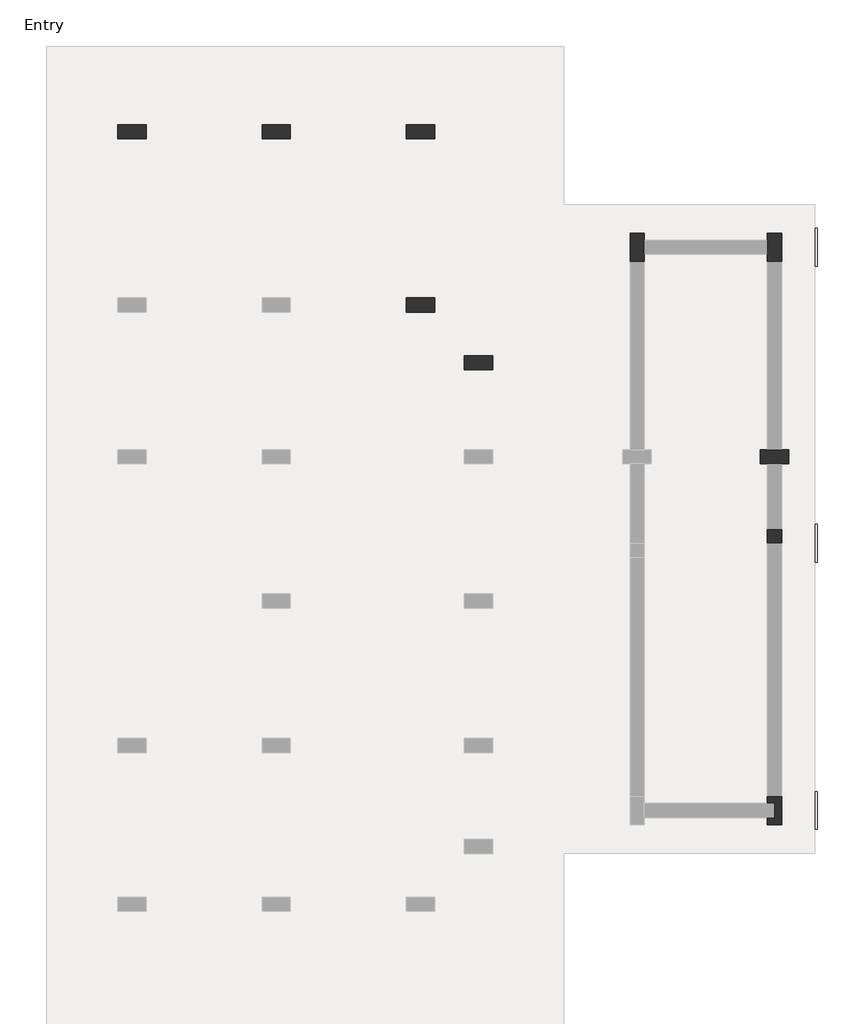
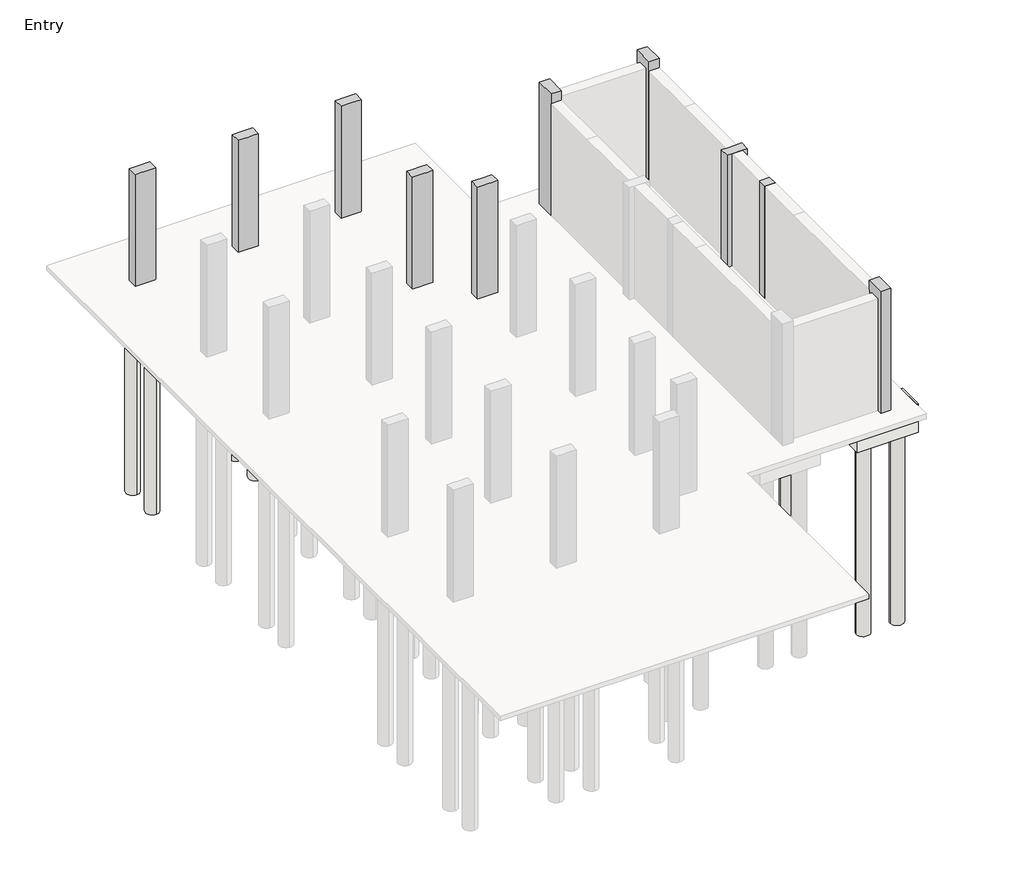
# One storey, part 3 of 3: 33 slabs, 10 columns, 5 footings.
"""IFC4 building model written with IfcOpenShell, lengths in millimetres."""

import ifcopenshell
import ifcopenshell.guid

model = None  # the IFC model being written
_history = None  # IfcOwnerHistory: only IFC2X3 demands one
_inside = {}  # id of a spatial element -> (the spatial element, [elements in it])
_under = {}  # id of a project, library or spatial element -> (it, [spatial elements below it])
_declared = {}  # id of a project -> (the project, [libraries it declares])
_typed = {}  # id of a type object -> (the type object, [elements of that type])
_made_of = {}  # id of a material, layer set ... -> (it, [elements and type objects made of it])


def new_model(schema):
    """Start an empty IFC model of exactly this schema.

    Asked for "IFC4X3", IfcOpenShell would pick the latest addendum, in which some entities
    have other attributes; the version numbers below select the first issue.
    IFC2X3 requires an IfcOwnerHistory on every rooted entity: one is made here for all.
    """
    global model, _history
    if schema == "IFC4X3":
        model = ifcopenshell.file(schema_version=(4, 3, 0, 0))
    else:
        model = ifcopenshell.file(schema=schema)
    _inside.clear()
    _under.clear()
    _declared.clear()
    _typed.clear()
    _made_of.clear()
    _history = None
    if model.schema == "IFC2X3":
        org = make("IfcOrganization", Name="unknown")
        user = make(
            "IfcPersonAndOrganization",
            ThePerson=make("IfcPerson", FamilyName="unknown"),
            TheOrganization=org,
        )
        app = make(
            "IfcApplication",
            ApplicationDeveloper=org,
            Version="unknown",
            ApplicationFullName="unknown",
            ApplicationIdentifier="unknown",
        )
        _history = make(
            "IfcOwnerHistory",
            OwningUser=user,
            OwningApplication=app,
            ChangeAction="ADDED",
            CreationDate=0,
        )
    return model


def make(cls, **values):
    """One entity of the class cls with the attributes given. An attribute that is None is left unset."""
    return model.create_entity(
        cls, **{name: value for name, value in values.items() if value is not None}
    )


def rooted(cls, **values):
    """An entity with a GlobalId (a new one), such as an element, a storey or a relation."""
    return make(cls, GlobalId=ifcopenshell.guid.new(), OwnerHistory=_history, **values)


def si_unit(unit_type, name, prefix=None):
    """IfcSIUnit, for example si_unit("LENGTHUNIT", "METRE", prefix="MILLI")."""
    return make("IfcSIUnit", UnitType=unit_type, Prefix=prefix, Name=name)


def assignment(units):
    """IfcUnitAssignment: the units of a project."""
    return None if units is None else make("IfcUnitAssignment", Units=units)


def point(xyz):
    """IfcCartesianPoint."""
    return None if xyz is None else make("IfcCartesianPoint", Coordinates=xyz)


def direction(xyz):
    """IfcDirection."""
    return None if xyz is None else make("IfcDirection", DirectionRatios=xyz)


def frame(location, z_axis=None, x_axis=None):
    """IfcAxis2Placement3D, a coordinate frame: its origin and axes. An axis left out is left unset."""
    return make(
        "IfcAxis2Placement3D",
        Location=point(location),
        Axis=direction(z_axis),
        RefDirection=direction(x_axis),
    )


def frame_2d(location, x_axis=None):
    """IfcAxis2Placement2D, a coordinate frame in the plane: its origin and x axis."""
    return make(
        "IfcAxis2Placement2D", Location=point(location), RefDirection=direction(x_axis)
    )


def origin():
    """The frame at (0, 0, 0) with its axes left unset."""
    return frame((0.0, 0.0, 0.0))


def origin_with_axes():
    """The frame at (0, 0, 0) with the z axis (0, 0, 1) and the x axis (1, 0, 0) written out."""
    return frame((0.0, 0.0, 0.0), z_axis=(0.0, 0.0, 1.0), x_axis=(1.0, 0.0, 0.0))


def place(relative_to, where):
    """IfcLocalPlacement: puts the frame where relative to a parent placement (None: the world)."""
    return make(
        "IfcLocalPlacement", PlacementRelTo=relative_to, RelativePlacement=where
    )


def context(
    kind, dimensions, precision=None, world=None, true_north=None, identifier=None
):
    """IfcGeometricRepresentationContext, for example the 3D "Model" context."""
    return make(
        "IfcGeometricRepresentationContext",
        ContextIdentifier=identifier,
        ContextType=kind,
        CoordinateSpaceDimension=dimensions,
        Precision=precision,
        WorldCoordinateSystem=world,
        TrueNorth=true_north,
    )


def project(units=None, contexts=None):
    """IfcProject with its units and contexts."""
    return rooted(
        "IfcProject",
        Name="project",
        RepresentationContexts=contexts,
        UnitsInContext=assignment(units),
    )


def spatial(cls, under=None, at=None, **own):
    """A site, building, storey or space (cls), placed at a placement, below another one or the project."""
    s = rooted(cls, ObjectPlacement=at, **own)
    if under is not None:
        _under.setdefault(under.id(), (under, []))[1].append(s)
    return s


def polyline(points):
    """IfcPolyline through the points."""
    return make("IfcPolyline", Points=[point(p) for p in points])


def circle_curve(where, radius):
    """IfcCircle in the frame where."""
    return make("IfcCircle", Position=where, Radius=radius)


def trimmed(basis, trim1, trim2, sense, master):
    """IfcTrimmedCurve: the piece of a basis curve between two trims."""
    return make(
        "IfcTrimmedCurve",
        BasisCurve=basis,
        Trim1=trim1,
        Trim2=trim2,
        SenseAgreement=sense,
        MasterRepresentation=master,
    )


def segment(curve, same_sense, transition):
    """IfcCompositeCurveSegment."""
    return make(
        "IfcCompositeCurveSegment",
        Transition=transition,
        SameSense=same_sense,
        ParentCurve=curve,
    )


def composite_curve(segments, self_intersect=None):
    """IfcCompositeCurve: segments joined end to end."""
    return make("IfcCompositeCurve", Segments=segments, SelfIntersect=self_intersect)


def outline(outer, holes=None, kind="AREA"):
    """IfcArbitraryClosedProfileDef: a profile drawn as a closed curve; with holes, ...WithVoids."""
    if holes is None:
        return make("IfcArbitraryClosedProfileDef", ProfileType=kind, OuterCurve=outer)
    return make(
        "IfcArbitraryProfileDefWithVoids",
        ProfileType=kind,
        OuterCurve=outer,
        InnerCurves=holes,
    )


def extrude(swept, where, along, depth):
    """IfcExtrudedAreaSolid: the profile swept, set in the frame where, extruded along a direction by depth."""
    return make(
        "IfcExtrudedAreaSolid",
        SweptArea=swept,
        Position=where,
        ExtrudedDirection=direction(along),
        Depth=depth,
    )


def faces_of(points, faces, orient=None, outer=None):
    """IfcFace entities. A face is a list of loops; a loop is a list of indices into points, from 0.

    orient and outer hold one flag for each loop. By default every Orientation is true, the
    first loop of a face is its IfcFaceOuterBound and the others are IfcFaceBound.
    """
    made = []
    for i, loops in enumerate(faces):
        bounds = []
        for j, loop in enumerate(loops):
            is_outer = j == 0 if outer is None else outer[i][j]
            bounds.append(
                make(
                    "IfcFaceOuterBound" if is_outer else "IfcFaceBound",
                    Bound=make("IfcPolyLoop", Polygon=[points[k] for k in loop]),
                    Orientation=True if orient is None else orient[i][j],
                )
            )
        made.append(make("IfcFace", Bounds=bounds))
    return made


def faceted_brep(points, faces, orient=None, outer=None, voids=None):
    """IfcFacetedBrep: a solid bounded by flat faces; with voids (closed shells), ...WithVoids."""
    shared = [point(p) for p in points]
    hull = make("IfcClosedShell", CfsFaces=faces_of(shared, faces, orient, outer))
    if voids is None:
        return make("IfcFacetedBrep", Outer=hull)
    return make(
        "IfcFacetedBrepWithVoids",
        Outer=hull,
        Voids=[
            make(cls, CfsFaces=faces_of(shared, fs, o, b)) for cls, fs, o, b in voids
        ],
    )


def shape(context_of_items, identifier, shape_type, items):
    """IfcShapeRepresentation: the items that make up one representation, for example the "Body"."""
    return make(
        "IfcShapeRepresentation",
        ContextOfItems=context_of_items,
        RepresentationIdentifier=identifier,
        RepresentationType=shape_type,
        Items=items,
    )


def made_of(thing, what):
    """Note that an element or type object is made of a material, layer set ...; save() writes the relation."""
    if what is not None:
        _made_of.setdefault(what.id(), (what, []))[1].append(thing)
    return thing


def element(
    cls,
    number,
    at=None,
    inside=None,
    cuts=None,
    type_object=None,
    material=None,
    context=None,
    identifier="Body",
    shape_type=None,
    held_by="IfcProductDefinitionShape",
    body=None,
    shapes=None,
    **own,
):
    """One element of the class cls, such as IfcWall. Its Tag is "e" and its number.

    at: its placement. inside: the storey or other place that contains it. cuts: it is an
    opening in that element (IfcRelVoidsElement). A single representation is given by context,
    identifier, shape_type and body (its items); several are given by shapes. held_by: the class
    of the entity that holds the representations. save() writes the other relations.
    """
    e = rooted(cls, Tag="e%d" % number, ObjectPlacement=at, **own)
    if body is not None:
        shapes = [shape(context, identifier, shape_type, body)]
    if shapes is not None:
        e.Representation = make(held_by, Representations=shapes)
    if inside is not None:
        _inside.setdefault(inside.id(), (inside, []))[1].append(e)
    if cuts is not None:
        rooted(
            "IfcRelVoidsElement", RelatingBuildingElement=cuts, RelatedOpeningElement=e
        )
    if type_object is not None:
        _typed.setdefault(type_object.id(), (type_object, []))[1].append(e)
    return made_of(e, material)


def aggregate(whole, parts):
    """IfcRelAggregates: a whole, such as a stair, and the parts it consists of."""
    return rooted("IfcRelAggregates", RelatingObject=whole, RelatedObjects=parts)


def save(model, path):
    """Write the relations noted so far, then the file.

    IfcRelAggregates (storeys below a building ...), IfcRelContainedInSpatialStructure (elements
    in a storey), IfcRelDefinesByType, IfcRelAssociatesMaterial and IfcRelDeclares: one each for
    every whole, place, type object, material and project.
    """
    for whole, parts in _under.values():
        aggregate(whole, parts)
    for where, things in _inside.values():
        rooted(
            "IfcRelContainedInSpatialStructure",
            RelatedElements=things,
            RelatingStructure=where,
        )
    for kind, things in _typed.values():
        rooted("IfcRelDefinesByType", RelatedObjects=things, RelatingType=kind)
    for what, things in _made_of.values():
        rooted("IfcRelAssociatesMaterial", RelatedObjects=things, RelatingMaterial=what)
    for by, libraries in _declared.values():
        rooted("IfcRelDeclares", RelatingContext=by, RelatedDefinitions=libraries)
    model.write(path)


model = new_model("IFC4")

# Units and contexts
model_context = context("Model", 3, world=origin())
ifc_project = project(units=[si_unit("LENGTHUNIT", "METRE", prefix="MILLI")], contexts=[model_context])

# Site, building, storey
site = spatial("IfcSite", under=ifc_project)
building = spatial("IfcBuilding", under=site)
storey = spatial("IfcBuildingStorey", under=building, Name="Entry", Elevation=0.0)

# Columns
placement = place(None, origin())
element("IfcColumn", 1, ObjectType="M_Concrete-Rectangular-Column : 300 x 600mm", at=placement, inside=storey, context=model_context, shape_type="Brep", body=[
    faceted_brep([(-13131.3472303, 14876.016665, 0.0), (-12531.3472303, 14876.016665, 0.0), (-12531.3472303, 14576.016665, 0.0), (-13131.3472303, 14576.016665, 0.0), (-13131.3472303, 14876.016665, 3505.2), (-12831.3472303, 14876.016665, 3505.2), (-12531.3472303, 14876.016665, 3505.2), (-12531.3472303, 14876.016665, 2910.0), (-12531.3472303, 14576.016665, 3505.2), (-12531.3472303, 14576.016665, 2910.0), (-12831.3472303, 14576.016665, 3505.2), (-12981.3472303, 14576.016665, 3505.2), (-13131.3472303, 14576.016665, 3505.2)], [[[0, 1, 2, 3]], [[4, 5, 6, 7, 1, 0]], [[6, 8, 9, 2, 1, 7]], [[8, 10, 11, 12, 3, 2, 9]], [[12, 4, 0, 3]], [[4, 12, 11, 10, 8, 6, 5]]]),
])
element("IfcColumn", 2, ObjectType="M_Concrete-Rectangular-Column : 300 x 600mm", at=placement, inside=storey, context=model_context, shape_type="Brep", body=[
    faceted_brep([(-10083.3472303, 14876.016665, 0.0), (-9483.3472303, 14876.016665, 0.0), (-9483.3472303, 14576.016665, 0.0), (-10083.3472303, 14576.016665, 0.0), (-10083.3472303, 14876.016665, 3505.2), (-9783.3472303, 14876.016665, 3505.2), (-9483.3472303, 14876.016665, 3505.2), (-9483.3472303, 14876.016665, 2910.0), (-10083.3472303, 14876.016665, 2910.0), (-9483.3472303, 14576.016665, 3505.2), (-9483.3472303, 14576.016665, 2910.0), (-9633.3472303, 14576.016665, 3505.2), (-9783.3472303, 14576.016665, 3505.2), (-10083.3472303, 14576.016665, 3505.2), (-10083.3472303, 14576.016665, 2910.0)], [[[0, 1, 2, 3]], [[4, 5, 6, 7, 1, 0, 8]], [[6, 9, 10, 2, 1, 7]], [[9, 11, 12, 13, 14, 3, 2, 10]], [[13, 4, 8, 0, 3, 14]], [[4, 13, 12, 11, 9, 6, 5]]]),
])
element("IfcColumn", 3, ObjectType="M_Concrete-Rectangular-Column : 300 x 600mm", at=placement, inside=storey, context=model_context, shape_type="Brep", body=[
    faceted_brep([(-7035.3472303, 14876.016665, 0.0), (-6435.3472303, 14876.016665, 0.0), (-6435.3472303, 14576.016665, 0.0), (-7035.3472303, 14576.016665, 0.0), (-7035.3472303, 14876.016665, 3505.2), (-6735.3472303, 14876.016665, 3505.2), (-6435.3472303, 14876.016665, 3505.2), (-7035.3472303, 14876.016665, 2910.0), (-6435.3472303, 14576.016665, 3505.2), (-6585.3472303, 14576.016665, 3505.2), (-6735.3472303, 14576.016665, 3505.2), (-7035.3472303, 14576.016665, 3505.2), (-7035.3472303, 14576.016665, 2910.0)], [[[0, 1, 2, 3]], [[4, 5, 6, 1, 0, 7]], [[6, 8, 2, 1]], [[8, 9, 10, 11, 12, 3, 2]], [[11, 4, 7, 0, 3, 12]], [[4, 11, 10, 9, 8, 6, 5]]]),
])
element("IfcColumn", 4, ObjectType="M_Concrete-Rectangular-Column : 300 x 600mm", at=placement, inside=storey, context=model_context, shape_type="Brep", body=[
    faceted_brep([(-7035.3472303, 11219.016665, 0.0), (-6435.3472303, 11219.016665, 0.0), (-6435.3472303, 10919.016665, 0.0), (-7035.3472303, 10919.016665, 0.0), (-7035.3472303, 11219.016665, 3505.2), (-6885.3472303, 11219.016665, 3505.2), (-6585.3472303, 11219.016665, 3505.2), (-6435.3472303, 11219.016665, 3505.2), (-7035.3472303, 11219.016665, 2910.0), (-6435.3472303, 10919.016665, 3505.2), (-6585.3472303, 10919.016665, 3505.2), (-6735.3472303, 10919.016665, 3505.2), (-7035.3472303, 10919.016665, 3505.2), (-7035.3472303, 10919.016665, 2910.0)], [[[0, 1, 2, 3]], [[4, 5, 6, 7, 1, 0, 8]], [[7, 9, 2, 1]], [[9, 10, 11, 12, 13, 3, 2]], [[12, 4, 8, 0, 3, 13]], [[4, 12, 11, 10, 9, 7, 6, 5]]]),
])
element("IfcColumn", 5, ObjectType="M_Concrete-Rectangular-Column : 300 x 600mm", at=placement, inside=storey, context=model_context, shape_type="Brep", body=[
    faceted_brep([(-5816.3472303, 10000.016665, 0.0), (-5216.3472303, 10000.016665, 0.0), (-5216.3472303, 9700.016665, 0.0), (-5816.3472303, 9700.016665, 0.0), (-5816.3472303, 10000.016665, 3505.2), (-5516.3472303, 10000.016665, 3505.2), (-5216.3472303, 10000.016665, 3505.2), (-5816.3472303, 10000.016665, 2910.0), (-5216.3472303, 9700.016665, 3505.2), (-5366.3472303, 9700.016665, 3505.2), (-5516.3472303, 9700.016665, 3505.2), (-5816.3472303, 9700.016665, 3505.2), (-5816.3472303, 9700.016665, 2910.0)], [[[0, 1, 2, 3]], [[4, 5, 6, 1, 0, 7]], [[6, 8, 2, 1]], [[8, 9, 10, 11, 12, 3, 2]], [[11, 4, 7, 0, 3, 12]], [[4, 11, 10, 9, 8, 6, 5]]]),
])
element("IfcColumn", 6, ObjectType="M_Concrete-Rectangular-Column : 300 x 600mm", at=placement, inside=storey, context=model_context, shape_type="Brep", body=[
    faceted_brep([(432.6527697, 8019.016665, 0.0), (582.6527697, 8019.016665, 0.0), (882.6527697, 8019.016665, 0.0), (1032.6527697, 8019.016665, 0.0), (1032.6527697, 7719.016665, 0.0), (882.6527697, 7719.016665, 0.0), (582.6527697, 7719.016665, 0.0), (432.6527697, 7719.016665, 0.0), (432.6527697, 8019.016665, 3510.0), (582.6527697, 8019.016665, 3510.0), (882.6527697, 8019.016665, 3510.0), (1032.6527697, 8019.016665, 3510.0), (1032.6527697, 7719.016665, 3510.0), (882.6527697, 7719.016665, 3510.0), (582.6527697, 7719.016665, 3510.0), (432.6527697, 7719.016665, 3510.0)], [[[0, 1, 2, 3, 4, 5, 6, 7]], [[3, 2, 1, 0, 8, 9, 10, 11]], [[4, 3, 11, 12]], [[7, 6, 5, 4, 12, 13, 14, 15]], [[0, 7, 15, 8]], [[11, 10, 9, 8, 15, 14, 13, 12]]]),
])
element("IfcColumn", 7, ObjectType="M_Concrete-Rectangular-Column : 300 x 600mm", at=placement, inside=storey, context=model_context, shape_type="Brep", body=[
    faceted_brep([(-2313.3472303, 11988.016665, 0.0), (-2313.3472303, 12588.016665, 0.0), (-2013.3472303, 12588.016665, 0.0), (-2013.3472303, 12438.016665, 0.0), (-2013.3472303, 12138.016665, 0.0), (-2013.3472303, 11988.016665, 0.0), (-2313.3472303, 11988.016665, 3810.0), (-2313.3472303, 12588.016665, 3810.0), (-2313.3472303, 11988.016665, 3510.0), (-2013.3472303, 12588.016665, 3810.0), (-2013.3472303, 11988.016665, 3810.0), (-2013.3472303, 11988.016665, 3510.0)], [[[0, 1, 2, 3, 4, 5]], [[6, 7, 1, 0, 8]], [[7, 9, 2, 1]], [[9, 10, 11, 5, 4, 3, 2]], [[10, 6, 8, 0, 5, 11]], [[6, 10, 9, 7]]]),
])
element("IfcColumn", 8, ObjectType="M_Concrete-Rectangular-Column : 300 x 600mm", at=placement, inside=storey, context=model_context, shape_type="Brep", body=[
    faceted_brep([(582.6527697, 11988.016665, 0.0), (582.6527697, 12138.016665, 0.0), (582.6527697, 12438.016665, 0.0), (582.6527697, 12588.016665, 0.0), (882.6527697, 12588.016665, 0.0), (882.6527697, 11988.016665, 0.0), (582.6527697, 11988.016665, 3810.0), (582.6527697, 12588.016665, 3810.0), (582.6527697, 11988.016665, 3510.0), (882.6527697, 12588.016665, 3810.0), (882.6527697, 11988.016665, 3810.0), (882.6527697, 11988.016665, 3510.0)], [[[0, 1, 2, 3, 4, 5]], [[6, 7, 3, 2, 1, 0, 8]], [[7, 9, 4, 3]], [[9, 10, 11, 5, 4]], [[10, 6, 8, 0, 5, 11]], [[6, 10, 9, 7]]]),
])
element("IfcColumn", 9, ObjectType="M_Concrete-Rectangular-Column : 300 x 600mm", at=placement, inside=storey, context=model_context, shape_type="Brep", body=[
    faceted_brep([(582.6527697, 701.016665, 0.0), (882.6527697, 701.016665, 0.0), (882.6527697, 101.016665, 0.0), (582.6527697, 101.016665, 0.0), (582.6527697, 251.016665, 0.0), (732.6527697, 251.016665, 0.0), (732.6527697, 551.016665, 0.0), (582.6527697, 551.016665, 0.0), (582.6527697, 101.016665, 3810.0), (582.6527697, 701.016665, 3810.0), (582.6527697, 701.016665, 3510.0), (582.6527697, 551.016665, 3510.0), (582.6527697, 251.016665, 3510.0), (882.6527697, 701.016665, 3810.0), (882.6527697, 701.016665, 3510.0), (882.6527697, 101.016665, 3810.0), (732.6527697, 551.016665, 3510.0), (732.6527697, 251.016665, 3510.0)], [[[0, 1, 2, 3, 4, 5, 6, 7]], [[8, 9, 10, 0, 7, 11, 12, 4, 3]], [[1, 0, 10, 9, 13, 14]], [[2, 1, 14, 13, 15]], [[3, 2, 15, 8]], [[9, 8, 15, 13]], [[6, 16, 11, 7]], [[17, 5, 4, 12]], [[16, 17, 12, 11]], [[16, 6, 5, 17]]]),
])
element("IfcColumn", 10, ObjectType="M_Concrete-Rectangular-Column : 300 x 600mm", at=placement, inside=storey, context=model_context, shape_type="SweptSolid", body=[
    extrude(outline(polyline([(582.6527697, 6340.016665), (882.6527697, 6340.016665), (882.6527697, 6040.016665), (582.6527697, 6040.016665), (582.6527697, 6340.016665)])), origin_with_axes(), (0.0, 0.0, 1.0), 3510.0),
])

# Footings
element("IfcFooting", 11, ObjectType="Bearing Footing - 900 x 300", at=placement, inside=storey, context=model_context, shape_type="Brep", body=[
    faceted_brep([(-2013.3472303, 12738.016665, -300.0), (-2013.3472303, 12688.016665, -300.0), (-2013.3472303, 12688.016665, -150.0), (-2013.3472303, 12738.016665, -150.0), (-2013.3472303, 11888.016665, -300.0), (-2013.3472303, 11838.016665, -300.0), (-2013.3472303, 11838.016665, -150.0), (-2013.3472303, 11888.016665, -150.0), (582.6527697, 12688.016665, -300.0), (582.6527697, 12738.016665, -300.0), (582.6527697, 12738.016665, -150.0), (582.6527697, 12688.016665, -150.0), (582.6527697, 11838.016665, -300.0), (582.6527697, 11888.016665, -300.0), (582.6527697, 11888.016665, -150.0), (582.6527697, 11838.016665, -150.0), (-167.3472303, 12688.016665, -300.0), (-167.3472303, 11888.016665, -300.0), (282.6527697, 11838.016665, -300.0), (-1713.3472303, 11838.016665, -300.0), (-1263.3472303, 11888.016665, -300.0), (-1263.3472303, 12688.016665, -300.0), (282.6527697, 11838.016665, -150.0), (-1713.3472303, 11838.016665, -150.0), (-1263.3472303, 11888.016665, -150.0), (-1263.3472303, 12688.016665, -150.0), (-167.3472303, 11888.016665, -150.0), (-167.3472303, 12688.016665, -150.0)], [[[0, 1, 2, 3]], [[4, 5, 6, 7]], [[8, 9, 10, 11]], [[12, 13, 14, 15]], [[9, 0, 3, 10]], [[0, 9, 8, 16, 17, 13, 12, 18, 19, 5, 4, 20, 21, 1]], [[5, 19, 18, 12, 15, 22, 23, 6]], [[20, 4, 7, 24]], [[21, 20, 24, 25]], [[1, 21, 25, 2]], [[13, 17, 26, 14]], [[16, 8, 11, 27]], [[17, 16, 27, 26]], [[3, 2, 25, 24, 7, 6, 23, 22, 15, 14, 26, 27, 11, 10]]]),
])
element("IfcFooting", 12, ObjectType="Bearing Footing - 900 x 300", at=placement, inside=storey, context=model_context, shape_type="SweptSolid", body=[
    extrude(outline(polyline([(1182.6527697, 11888.016665), (1182.6527697, 8019.016665), (1132.6527697, 8019.016665), (1132.6527697, 8769.016665), (332.6527697, 8769.016665), (332.6527697, 8019.016665), (282.6527697, 8019.016665), (282.6527697, 11838.016665), (582.6527697, 11838.016665), (582.6527697, 11888.016665), (1182.6527697, 11888.016665)])), frame((0.0, 0.0, -300.0), z_axis=(0.0, 0.0, 1.0), x_axis=(1.0, 0.0, 0.0)), (0.0, 0.0, 1.0), 150.0),
])
element("IfcFooting", 13, ObjectType="Bearing Footing - 900 x 300", at=placement, inside=storey, context=model_context, shape_type="SweptSolid", body=[
    extrude(outline(polyline([(282.6527697, 7719.016665), (332.6527697, 7719.016665), (332.6527697, 6969.016665), (1132.6527697, 6969.016665), (1132.6527697, 7719.016665), (1182.6527697, 7719.016665), (1182.6527697, 6440.016665), (282.6527697, 6440.016665), (282.6527697, 7719.016665)])), frame((0.0, 0.0, -300.0), z_axis=(0.0, 0.0, 1.0), x_axis=(1.0, 0.0, 0.0)), (0.0, 0.0, 1.0), 150.0),
])
element("IfcFooting", 14, ObjectType="Bearing Footing - 900 x 300", at=placement, inside=storey, context=model_context, shape_type="Brep", body=[
    faceted_brep([(1182.6527697, 801.016665, -300.0), (1182.6527697, 5640.016665, -300.0), (1182.6527697, 5640.016665, -150.0), (1182.6527697, 801.016665, -150.0), (282.6527697, 801.016665, -300.0), (282.6527697, 851.016665, -300.0), (282.6527697, 5640.016665, -300.0), (282.6527697, 801.016665, -150.0), (282.6527697, 851.016665, -150.0), (282.6527697, 5640.016665, -150.0)], [[[0, 1, 2, 3]], [[0, 4, 5, 6, 1]], [[6, 5, 4, 7, 8, 9]], [[4, 0, 3, 7]], [[1, 6, 9, 2]], [[3, 2, 9, 8, 7]]]),
])
element("IfcFooting", 15, ObjectType="Bearing Footing - 900 x 300", at=placement, inside=storey, context=model_context, shape_type="SweptSolid", body=[
    extrude(outline(polyline([(-2613.3472303, 8019.016665), (-2613.3472303, 11888.016665), (-2013.3472303, 11888.016665), (-2013.3472303, 11838.016665), (-1713.3472303, 11838.016665), (-1713.3472303, 8019.016665), (-1763.3472303, 8019.016665), (-1763.3472303, 8769.016665), (-2563.3472303, 8769.016665), (-2563.3472303, 8019.016665), (-2613.3472303, 8019.016665)])), frame((0.0, 0.0, -300.0), z_axis=(0.0, 0.0, 1.0), x_axis=(1.0, 0.0, 0.0)), (0.0, 0.0, 1.0), 150.0),
])

# Slabs
element("IfcSlab", 16, ObjectType="M_Pile Cap-2 Pile : 800 x 1500 x 900", at=placement, inside=storey, context=model_context, shape_type="SweptSolid", body=[
    extrude(outline(polyline([(-13231.3472303, 15626.016665), (-12431.3472303, 15626.016665), (-12431.3472303, 13826.016665), (-13231.3472303, 13826.016665), (-13231.3472303, 15626.016665)])), frame((0.0, 0.0, -900.0), z_axis=(0.0, 0.0, 1.0), x_axis=(1.0, 0.0, 0.0)), (0.0, 0.0, 1.0), 750.0),
])
element("IfcSlab", 17, ObjectType="M_Pile Cap-2 Pile : 800 x 1500 x 900", at=placement, inside=storey, context=model_context, shape_type="SweptSolid", body=[
    extrude(outline(polyline([(-10183.3472303, 15626.016665), (-9383.3472303, 15626.016665), (-9383.3472303, 13826.016665), (-10183.3472303, 13826.016665), (-10183.3472303, 15626.016665)])), frame((0.0, 0.0, -900.0), z_axis=(0.0, 0.0, 1.0), x_axis=(1.0, 0.0, 0.0)), (0.0, 0.0, 1.0), 750.0),
])
element("IfcSlab", 18, ObjectType="M_Pile Cap-2 Pile : 800 x 1500 x 900", at=placement, inside=storey, context=model_context, shape_type="SweptSolid", body=[
    extrude(outline(polyline([(-7135.3472303, 15626.016665), (-6335.3472303, 15626.016665), (-6335.3472303, 13826.016665), (-7135.3472303, 13826.016665), (-7135.3472303, 15626.016665)])), frame((0.0, 0.0, -900.0), z_axis=(0.0, 0.0, 1.0), x_axis=(1.0, 0.0, 0.0)), (0.0, 0.0, 1.0), 750.0),
])
element("IfcSlab", 19, ObjectType="M_Pile Cap-2 Pile : 800 x 1500 x 900", at=placement, inside=storey, context=model_context, shape_type="SweptSolid", body=[
    extrude(outline(polyline([(-7135.3472303, 11969.016665), (-6335.3472303, 11969.016665), (-6335.3472303, 10169.016665), (-7135.3472303, 10169.016665), (-7135.3472303, 11969.016665)])), frame((0.0, 0.0, -900.0), z_axis=(0.0, 0.0, 1.0), x_axis=(1.0, 0.0, 0.0)), (0.0, 0.0, 1.0), 750.0),
])
element("IfcSlab", 20, ObjectType="M_Pile Cap-2 Pile : 800 x 1500 x 900", at=placement, inside=storey, context=model_context, shape_type="Brep", body=[
    faceted_brep([(-3063.3472303, 11888.016665, -900.0), (-3063.3472303, 12688.016665, -900.0), (-1263.3472303, 12688.016665, -900.0), (-1263.3472303, 11888.016665, -900.0), (-1263.3472303, 11888.016665, -300.0), (-1263.3472303, 11888.016665, -150.0), (-2013.3472303, 11888.016665, -150.0), (-2613.3472303, 11888.016665, -150.0), (-3063.3472303, 11888.016665, -150.0), (-1263.3472303, 12688.016665, -300.0), (-1263.3472303, 12688.016665, -150.0), (-3063.3472303, 12688.016665, -150.0), (-2013.3472303, 12688.016665, -150.0)], [[[0, 1, 2, 3]], [[0, 3, 4, 5, 6, 7, 8]], [[3, 2, 9, 10, 5, 4]], [[2, 1, 11, 12, 10, 9]], [[1, 0, 8, 11]], [[8, 7, 6, 5, 10, 12, 11]]]),
])
element("IfcSlab", 21, ObjectType="M_Pile Cap-2 Pile : 800 x 1500 x 900", at=placement, inside=storey, context=model_context, shape_type="Brep", body=[
    faceted_brep([(1632.6527697, 11888.016665, 0.0), (1632.6527697, 12688.016665, 0.0), (1583.6527697, 12688.016665, 0.0), (1583.6527697, 11888.016665, 0.0), (-167.3472303, 11888.016665, -900.0), (-167.3472303, 12688.016665, -900.0), (1632.6527697, 12688.016665, -900.0), (1632.6527697, 11888.016665, -900.0), (1583.6527697, 11888.016665, -150.0), (1182.6527697, 11888.016665, -150.0), (582.6527697, 11888.016665, -150.0), (-167.3472303, 11888.016665, -150.0), (-167.3472303, 11888.016665, -300.0), (-167.3472303, 12688.016665, -300.0), (-167.3472303, 12688.016665, -150.0), (582.6527697, 12688.016665, -150.0), (1583.6527697, 12688.016665, -150.0)], [[[0, 1, 2, 3]], [[4, 5, 6, 7]], [[4, 7, 0, 3, 8, 9, 10, 11, 12]], [[1, 0, 7, 6]], [[6, 5, 13, 14, 15, 16, 2, 1]], [[5, 4, 12, 11, 14, 13]], [[8, 16, 15, 14, 11, 10, 9]], [[16, 8, 3, 2]]]),
])
element("IfcSlab", 22, ObjectType="M_Pile Cap-2 Pile : 800 x 1500 x 900", at=placement, inside=storey, context=model_context, shape_type="Brep", body=[
    faceted_brep([(332.6527697, 8769.016665, -900.0), (1132.6527697, 8769.016665, -900.0), (1132.6527697, 6969.016665, -900.0), (332.6527697, 6969.016665, -900.0), (332.6527697, 6969.016665, -300.0), (332.6527697, 6969.016665, -150.0), (332.6527697, 7719.016665, -150.0), (332.6527697, 8019.016665, -150.0), (332.6527697, 8769.016665, -150.0), (332.6527697, 8769.016665, -300.0), (1132.6527697, 6969.016665, -300.0), (1132.6527697, 6969.016665, -150.0), (1132.6527697, 8769.016665, -300.0), (1132.6527697, 8769.016665, -150.0), (1132.6527697, 8019.016665, -150.0), (1132.6527697, 7719.016665, -150.0)], [[[0, 1, 2, 3]], [[0, 3, 4, 5, 6, 7, 8, 9]], [[3, 2, 10, 11, 5, 4]], [[2, 1, 12, 13, 14, 15, 11, 10]], [[1, 0, 9, 8, 13, 12]], [[8, 7, 6, 5, 11, 15, 14, 13]]]),
])
element("IfcSlab", 23, ObjectType="M_Pile Cap-2 Pile : 800 x 1500 x 900", at=placement, inside=storey, context=model_context, shape_type="Brep", body=[
    faceted_brep([(1632.6527697, 1.016665, 0.0), (1632.6527697, 801.016665, 0.0), (1583.6527697, 801.016665, 0.0), (1583.6527697, 1.016665, 0.0), (-167.3472303, 1.016665, -900.0), (-167.3472303, 801.016665, -900.0), (1632.6527697, 801.016665, -900.0), (1632.6527697, 1.016665, -900.0), (1583.6527697, 1.016665, -150.0), (732.6527697, 1.016665, -150.0), (-167.3472303, 1.016665, -150.0), (-167.3472303, 1.016665, -300.0), (-167.3472303, 801.016665, -300.0), (-167.3472303, 801.016665, -150.0), (282.6527697, 801.016665, -150.0), (1182.6527697, 801.016665, -150.0), (1583.6527697, 801.016665, -150.0)], [[[0, 1, 2, 3]], [[4, 5, 6, 7]], [[4, 7, 0, 3, 8, 9, 10, 11]], [[1, 0, 7, 6]], [[6, 5, 12, 13, 14, 15, 16, 2, 1]], [[5, 4, 11, 10, 13, 12]], [[8, 16, 15, 14, 13, 10, 9]], [[16, 8, 3, 2]]]),
])
element("IfcSlab", 24, ObjectType="M_Pile Cap-2 Pile : 800 x 1500 x 900", at=placement, inside=storey, context=model_context, shape_type="Brep", body=[
    faceted_brep([(1632.6527697, 5640.016665, 0.0), (1632.6527697, 6440.016665, 0.0), (1583.6527697, 6440.016665, 0.0), (1583.6527697, 5640.016665, 0.0), (-167.3472303, 5640.016665, -900.0), (-167.3472303, 6440.016665, -900.0), (1632.6527697, 6440.016665, -900.0), (1632.6527697, 5640.016665, -900.0), (1583.6527697, 5640.016665, -150.0), (1182.6527697, 5640.016665, -150.0), (282.6527697, 5640.016665, -150.0), (-167.3472303, 5640.016665, -150.0), (-167.3472303, 6440.016665, -150.0), (282.6527697, 6440.016665, -150.0), (1182.6527697, 6440.016665, -150.0), (1583.6527697, 6440.016665, -150.0)], [[[0, 1, 2, 3]], [[4, 5, 6, 7]], [[4, 7, 0, 3, 8, 9, 10, 11]], [[1, 0, 7, 6]], [[6, 5, 12, 13, 14, 15, 2, 1]], [[5, 4, 11, 12]], [[8, 15, 14, 13, 12, 11, 10, 9]], [[15, 8, 3, 2]]]),
])
element("IfcSlab", 25, ObjectType="M_Pile Cap-2 Pile : 800 x 1500 x 900", at=placement, inside=storey, context=model_context, shape_type="SweptSolid", body=[
    extrude(outline(polyline([(-4513.3472303, 10250.016665), (-4513.3472303, 9450.016665), (-6313.3472303, 9450.016665), (-6313.3472303, 10250.016665), (-4513.3472303, 10250.016665)])), frame((0.0, 0.0, -900.0), z_axis=(0.0, 0.0, 1.0), x_axis=(1.0, 0.0, 0.0)), (0.0, 0.0, 1.0), 750.0),
])
element("IfcSlab", 26, ObjectType="M_Pile-Steel Pipe : 400mm Diameter", at=placement, inside=storey, context=model_context, shape_type="SweptSolid", body=[
    extrude(outline(composite_curve([segment(trimmed(circle_curve(frame_2d((-9263.3472303, 11589.016665)), 200.0), [point((-9263.3472303, 11389.016665))], [point((-9263.3472303, 11789.016665))], False, "CARTESIAN"), True, "CONTINUOUS"), segment(trimmed(circle_curve(frame_2d((-9263.3472303, 11589.016665)), 200.0), [point((-9263.3472303, 11789.016665))], [point((-9263.3472303, 11389.016665))], False, "CARTESIAN"), True, "CONTINUOUS")], self_intersect=False)), frame((0.0, 0.0, -6900.0), z_axis=(0.0, 0.0, 1.0), x_axis=(1.0, 0.0, 0.0)), (0.0, 0.0, 1.0), 6000.0),
])
element("IfcSlab", 27, ObjectType="M_Pile-Steel Pipe : 400mm Diameter", at=placement, inside=storey, context=model_context, shape_type="SweptSolid", body=[
    extrude(outline(composite_curve([segment(trimmed(circle_curve(frame_2d((-12831.3472303, 14226.016665)), 200.0), [point((-12831.3472303, 14026.016665))], [point((-12831.3472303, 14426.016665))], False, "CARTESIAN"), True, "CONTINUOUS"), segment(trimmed(circle_curve(frame_2d((-12831.3472303, 14226.016665)), 200.0), [point((-12831.3472303, 14426.016665))], [point((-12831.3472303, 14026.016665))], False, "CARTESIAN"), True, "CONTINUOUS")], self_intersect=False)), frame((0.0, 0.0, -6900.0), z_axis=(0.0, 0.0, 1.0), x_axis=(1.0, 0.0, 0.0)), (0.0, 0.0, 1.0), 6000.0),
])
element("IfcSlab", 28, ObjectType="M_Pile-Steel Pipe : 400mm Diameter", at=placement, inside=storey, context=model_context, shape_type="SweptSolid", body=[
    extrude(outline(composite_curve([segment(trimmed(circle_curve(frame_2d((-12831.3472303, 15226.016665)), 200.0), [point((-12831.3472303, 15026.016665))], [point((-12831.3472303, 15426.016665))], False, "CARTESIAN"), True, "CONTINUOUS"), segment(trimmed(circle_curve(frame_2d((-12831.3472303, 15226.016665)), 200.0), [point((-12831.3472303, 15426.016665))], [point((-12831.3472303, 15026.016665))], False, "CARTESIAN"), True, "CONTINUOUS")], self_intersect=False)), frame((0.0, 0.0, -6900.0), z_axis=(0.0, 0.0, 1.0), x_axis=(1.0, 0.0, 0.0)), (0.0, 0.0, 1.0), 6000.0),
])
element("IfcSlab", 29, ObjectType="M_Pile-Steel Pipe : 400mm Diameter", at=placement, inside=storey, context=model_context, shape_type="SweptSolid", body=[
    extrude(outline(composite_curve([segment(trimmed(circle_curve(frame_2d((-9783.3472303, 14226.016665)), 200.0), [point((-9783.3472303, 14026.016665))], [point((-9783.3472303, 14426.016665))], False, "CARTESIAN"), True, "CONTINUOUS"), segment(trimmed(circle_curve(frame_2d((-9783.3472303, 14226.016665)), 200.0), [point((-9783.3472303, 14426.016665))], [point((-9783.3472303, 14026.016665))], False, "CARTESIAN"), True, "CONTINUOUS")], self_intersect=False)), frame((0.0, 0.0, -6900.0), z_axis=(0.0, 0.0, 1.0), x_axis=(1.0, 0.0, 0.0)), (0.0, 0.0, 1.0), 6000.0),
])
element("IfcSlab", 30, ObjectType="M_Pile-Steel Pipe : 400mm Diameter", at=placement, inside=storey, context=model_context, shape_type="SweptSolid", body=[
    extrude(outline(composite_curve([segment(trimmed(circle_curve(frame_2d((-9783.3472303, 15226.016665)), 200.0), [point((-9783.3472303, 15026.016665))], [point((-9783.3472303, 15426.016665))], False, "CARTESIAN"), True, "CONTINUOUS"), segment(trimmed(circle_curve(frame_2d((-9783.3472303, 15226.016665)), 200.0), [point((-9783.3472303, 15426.016665))], [point((-9783.3472303, 15026.016665))], False, "CARTESIAN"), True, "CONTINUOUS")], self_intersect=False)), frame((0.0, 0.0, -6900.0), z_axis=(0.0, 0.0, 1.0), x_axis=(1.0, 0.0, 0.0)), (0.0, 0.0, 1.0), 6000.0),
])
element("IfcSlab", 31, ObjectType="M_Pile-Steel Pipe : 400mm Diameter", at=placement, inside=storey, context=model_context, shape_type="SweptSolid", body=[
    extrude(outline(composite_curve([segment(trimmed(circle_curve(frame_2d((-6735.3472303, 14226.016665)), 200.0), [point((-6735.3472303, 14026.016665))], [point((-6735.3472303, 14426.016665))], False, "CARTESIAN"), True, "CONTINUOUS"), segment(trimmed(circle_curve(frame_2d((-6735.3472303, 14226.016665)), 200.0), [point((-6735.3472303, 14426.016665))], [point((-6735.3472303, 14026.016665))], False, "CARTESIAN"), True, "CONTINUOUS")], self_intersect=False)), frame((0.0, 0.0, -6900.0), z_axis=(0.0, 0.0, 1.0), x_axis=(1.0, 0.0, 0.0)), (0.0, 0.0, 1.0), 6000.0),
])
element("IfcSlab", 32, ObjectType="M_Pile-Steel Pipe : 400mm Diameter", at=placement, inside=storey, context=model_context, shape_type="SweptSolid", body=[
    extrude(outline(composite_curve([segment(trimmed(circle_curve(frame_2d((-6735.3472303, 15226.016665)), 200.0), [point((-6735.3472303, 15026.016665))], [point((-6735.3472303, 15426.016665))], False, "CARTESIAN"), True, "CONTINUOUS"), segment(trimmed(circle_curve(frame_2d((-6735.3472303, 15226.016665)), 200.0), [point((-6735.3472303, 15426.016665))], [point((-6735.3472303, 15026.016665))], False, "CARTESIAN"), True, "CONTINUOUS")], self_intersect=False)), frame((0.0, 0.0, -6900.0), z_axis=(0.0, 0.0, 1.0), x_axis=(1.0, 0.0, 0.0)), (0.0, 0.0, 1.0), 6000.0),
])
element("IfcSlab", 33, ObjectType="M_Pile-Steel Pipe : 400mm Diameter", at=placement, inside=storey, context=model_context, shape_type="SweptSolid", body=[
    extrude(outline(composite_curve([segment(trimmed(circle_curve(frame_2d((-6735.3472303, 10569.016665)), 200.0), [point((-6735.3472303, 10369.016665))], [point((-6735.3472303, 10769.016665))], False, "CARTESIAN"), True, "CONTINUOUS"), segment(trimmed(circle_curve(frame_2d((-6735.3472303, 10569.016665)), 200.0), [point((-6735.3472303, 10769.016665))], [point((-6735.3472303, 10369.016665))], False, "CARTESIAN"), True, "CONTINUOUS")], self_intersect=False)), frame((0.0, 0.0, -6900.0), z_axis=(0.0, 0.0, 1.0), x_axis=(1.0, 0.0, 0.0)), (0.0, 0.0, 1.0), 6000.0),
])
element("IfcSlab", 34, ObjectType="M_Pile-Steel Pipe : 400mm Diameter", at=placement, inside=storey, context=model_context, shape_type="SweptSolid", body=[
    extrude(outline(composite_curve([segment(trimmed(circle_curve(frame_2d((-6735.3472303, 11569.016665)), 200.0), [point((-6735.3472303, 11369.016665))], [point((-6735.3472303, 11769.016665))], False, "CARTESIAN"), True, "CONTINUOUS"), segment(trimmed(circle_curve(frame_2d((-6735.3472303, 11569.016665)), 200.0), [point((-6735.3472303, 11769.016665))], [point((-6735.3472303, 11369.016665))], False, "CARTESIAN"), True, "CONTINUOUS")], self_intersect=False)), frame((0.0, 0.0, -6900.0), z_axis=(0.0, 0.0, 1.0), x_axis=(1.0, 0.0, 0.0)), (0.0, 0.0, 1.0), 6000.0),
])
element("IfcSlab", 35, ObjectType="M_Pile-Steel Pipe : 400mm Diameter", at=placement, inside=storey, context=model_context, shape_type="SweptSolid", body=[
    extrude(outline(composite_curve([segment(trimmed(circle_curve(frame_2d((-1663.3472303, 12288.016665)), 200.0), [point((-1463.3472303, 12288.016665))], [point((-1863.3472303, 12288.016665))], False, "CARTESIAN"), True, "CONTINUOUS"), segment(trimmed(circle_curve(frame_2d((-1663.3472303, 12288.016665)), 200.0), [point((-1863.3472303, 12288.016665))], [point((-1463.3472303, 12288.016665))], False, "CARTESIAN"), True, "CONTINUOUS")], self_intersect=False)), frame((0.0, 0.0, -6900.0), z_axis=(0.0, 0.0, 1.0), x_axis=(1.0, 0.0, 0.0)), (0.0, 0.0, 1.0), 6000.0),
])
element("IfcSlab", 36, ObjectType="M_Pile-Steel Pipe : 400mm Diameter", at=placement, inside=storey, context=model_context, shape_type="SweptSolid", body=[
    extrude(outline(composite_curve([segment(trimmed(circle_curve(frame_2d((-2663.3472303, 12288.016665)), 200.0), [point((-2463.3472303, 12288.016665))], [point((-2863.3472303, 12288.016665))], False, "CARTESIAN"), True, "CONTINUOUS"), segment(trimmed(circle_curve(frame_2d((-2663.3472303, 12288.016665)), 200.0), [point((-2863.3472303, 12288.016665))], [point((-2463.3472303, 12288.016665))], False, "CARTESIAN"), True, "CONTINUOUS")], self_intersect=False)), frame((0.0, 0.0, -6900.0), z_axis=(0.0, 0.0, 1.0), x_axis=(1.0, 0.0, 0.0)), (0.0, 0.0, 1.0), 6000.0),
])
element("IfcSlab", 37, ObjectType="M_Pile-Steel Pipe : 400mm Diameter", at=placement, inside=storey, context=model_context, shape_type="SweptSolid", body=[
    extrude(outline(composite_curve([segment(trimmed(circle_curve(frame_2d((1232.6527697, 12288.016665)), 200.0), [point((1432.6527697, 12288.016665))], [point((1032.6527697, 12288.016665))], False, "CARTESIAN"), True, "CONTINUOUS"), segment(trimmed(circle_curve(frame_2d((1232.6527697, 12288.016665)), 200.0), [point((1032.6527697, 12288.016665))], [point((1432.6527697, 12288.016665))], False, "CARTESIAN"), True, "CONTINUOUS")], self_intersect=False)), frame((0.0, 0.0, -6900.0), z_axis=(0.0, 0.0, 1.0), x_axis=(1.0, 0.0, 0.0)), (0.0, 0.0, 1.0), 6000.0),
])
element("IfcSlab", 38, ObjectType="M_Pile-Steel Pipe : 400mm Diameter", at=placement, inside=storey, context=model_context, shape_type="SweptSolid", body=[
    extrude(outline(composite_curve([segment(trimmed(circle_curve(frame_2d((232.6527697, 12288.016665)), 200.0), [point((432.6527697, 12288.016665))], [point((32.6527697, 12288.016665))], False, "CARTESIAN"), True, "CONTINUOUS"), segment(trimmed(circle_curve(frame_2d((232.6527697, 12288.016665)), 200.0), [point((32.6527697, 12288.016665))], [point((432.6527697, 12288.016665))], False, "CARTESIAN"), True, "CONTINUOUS")], self_intersect=False)), frame((0.0, 0.0, -6900.0), z_axis=(0.0, 0.0, 1.0), x_axis=(1.0, 0.0, 0.0)), (0.0, 0.0, 1.0), 6000.0),
])
element("IfcSlab", 39, ObjectType="M_Pile-Steel Pipe : 400mm Diameter", at=placement, inside=storey, context=model_context, shape_type="SweptSolid", body=[
    extrude(outline(composite_curve([segment(trimmed(circle_curve(frame_2d((-2163.3472303, 8369.016665)), 200.0), [point((-2163.3472303, 8169.016665))], [point((-2163.3472303, 8569.016665))], False, "CARTESIAN"), True, "CONTINUOUS"), segment(trimmed(circle_curve(frame_2d((-2163.3472303, 8369.016665)), 200.0), [point((-2163.3472303, 8569.016665))], [point((-2163.3472303, 8169.016665))], False, "CARTESIAN"), True, "CONTINUOUS")], self_intersect=False)), frame((0.0, 0.0, -6900.0), z_axis=(0.0, 0.0, 1.0), x_axis=(1.0, 0.0, 0.0)), (0.0, 0.0, 1.0), 6000.0),
])
element("IfcSlab", 40, ObjectType="M_Pile-Steel Pipe : 400mm Diameter", at=placement, inside=storey, context=model_context, shape_type="SweptSolid", body=[
    extrude(outline(composite_curve([segment(trimmed(circle_curve(frame_2d((732.6527697, 7369.016665)), 200.0), [point((732.6527697, 7169.016665))], [point((732.6527697, 7569.016665))], False, "CARTESIAN"), True, "CONTINUOUS"), segment(trimmed(circle_curve(frame_2d((732.6527697, 7369.016665)), 200.0), [point((732.6527697, 7569.016665))], [point((732.6527697, 7169.016665))], False, "CARTESIAN"), True, "CONTINUOUS")], self_intersect=False)), frame((0.0, 0.0, -6900.0), z_axis=(0.0, 0.0, 1.0), x_axis=(1.0, 0.0, 0.0)), (0.0, 0.0, 1.0), 6000.0),
])
element("IfcSlab", 41, ObjectType="M_Pile-Steel Pipe : 400mm Diameter", at=placement, inside=storey, context=model_context, shape_type="SweptSolid", body=[
    extrude(outline(composite_curve([segment(trimmed(circle_curve(frame_2d((732.6527697, 8369.016665)), 200.0), [point((732.6527697, 8169.016665))], [point((732.6527697, 8569.016665))], False, "CARTESIAN"), True, "CONTINUOUS"), segment(trimmed(circle_curve(frame_2d((732.6527697, 8369.016665)), 200.0), [point((732.6527697, 8569.016665))], [point((732.6527697, 8169.016665))], False, "CARTESIAN"), True, "CONTINUOUS")], self_intersect=False)), frame((0.0, 0.0, -6900.0), z_axis=(0.0, 0.0, 1.0), x_axis=(1.0, 0.0, 0.0)), (0.0, 0.0, 1.0), 6000.0),
])
element("IfcSlab", 42, ObjectType="M_Pile-Steel Pipe : 400mm Diameter", at=placement, inside=storey, context=model_context, shape_type="SweptSolid", body=[
    extrude(outline(composite_curve([segment(trimmed(circle_curve(frame_2d((1232.6527697, 401.016665)), 200.0), [point((1432.6527697, 401.016665))], [point((1032.6527697, 401.016665))], False, "CARTESIAN"), True, "CONTINUOUS"), segment(trimmed(circle_curve(frame_2d((1232.6527697, 401.016665)), 200.0), [point((1032.6527697, 401.016665))], [point((1432.6527697, 401.016665))], False, "CARTESIAN"), True, "CONTINUOUS")], self_intersect=False)), frame((0.0, 0.0, -6900.0), z_axis=(0.0, 0.0, 1.0), x_axis=(1.0, 0.0, 0.0)), (0.0, 0.0, 1.0), 6000.0),
])
element("IfcSlab", 43, ObjectType="M_Pile-Steel Pipe : 400mm Diameter", at=placement, inside=storey, context=model_context, shape_type="SweptSolid", body=[
    extrude(outline(composite_curve([segment(trimmed(circle_curve(frame_2d((232.6527697, 401.016665)), 200.0), [point((432.6527697, 401.016665))], [point((32.6527697, 401.016665))], False, "CARTESIAN"), True, "CONTINUOUS"), segment(trimmed(circle_curve(frame_2d((232.6527697, 401.016665)), 200.0), [point((32.6527697, 401.016665))], [point((432.6527697, 401.016665))], False, "CARTESIAN"), True, "CONTINUOUS")], self_intersect=False)), frame((0.0, 0.0, -6900.0), z_axis=(0.0, 0.0, 1.0), x_axis=(1.0, 0.0, 0.0)), (0.0, 0.0, 1.0), 6000.0),
])
element("IfcSlab", 44, ObjectType="M_Pile-Steel Pipe : 400mm Diameter", at=placement, inside=storey, context=model_context, shape_type="SweptSolid", body=[
    extrude(outline(composite_curve([segment(trimmed(circle_curve(frame_2d((1232.6527697, 6040.016665)), 200.0), [point((1432.6527697, 6040.016665))], [point((1032.6527697, 6040.016665))], False, "CARTESIAN"), True, "CONTINUOUS"), segment(trimmed(circle_curve(frame_2d((1232.6527697, 6040.016665)), 200.0), [point((1032.6527697, 6040.016665))], [point((1432.6527697, 6040.016665))], False, "CARTESIAN"), True, "CONTINUOUS")], self_intersect=False)), frame((0.0, 0.0, -6900.0), z_axis=(0.0, 0.0, 1.0), x_axis=(1.0, 0.0, 0.0)), (0.0, 0.0, 1.0), 6000.0),
])
element("IfcSlab", 45, ObjectType="M_Pile-Steel Pipe : 400mm Diameter", at=placement, inside=storey, context=model_context, shape_type="SweptSolid", body=[
    extrude(outline(composite_curve([segment(trimmed(circle_curve(frame_2d((232.6527697, 6040.016665)), 200.0), [point((432.6527697, 6040.016665))], [point((32.6527697, 6040.016665))], False, "CARTESIAN"), True, "CONTINUOUS"), segment(trimmed(circle_curve(frame_2d((232.6527697, 6040.016665)), 200.0), [point((32.6527697, 6040.016665))], [point((432.6527697, 6040.016665))], False, "CARTESIAN"), True, "CONTINUOUS")], self_intersect=False)), frame((0.0, 0.0, -6900.0), z_axis=(0.0, 0.0, 1.0), x_axis=(1.0, 0.0, 0.0)), (0.0, 0.0, 1.0), 6000.0),
])
element("IfcSlab", 46, ObjectType="M_Pile-Steel Pipe : 400mm Diameter", at=placement, inside=storey, context=model_context, shape_type="SweptSolid", body=[
    extrude(outline(composite_curve([segment(trimmed(circle_curve(frame_2d((-5516.3472303, 8369.016665)), 200.0), [point((-5516.3472303, 8169.016665))], [point((-5516.3472303, 8569.016665))], False, "CARTESIAN"), True, "CONTINUOUS"), segment(trimmed(circle_curve(frame_2d((-5516.3472303, 8369.016665)), 200.0), [point((-5516.3472303, 8569.016665))], [point((-5516.3472303, 8169.016665))], False, "CARTESIAN"), True, "CONTINUOUS")], self_intersect=False)), frame((0.0, 0.0, -6900.0), z_axis=(0.0, 0.0, 1.0), x_axis=(1.0, 0.0, 0.0)), (0.0, 0.0, 1.0), 6000.0),
])
element("IfcSlab", 47, ObjectType="M_Pile-Steel Pipe : 400mm Diameter", at=placement, inside=storey, context=model_context, shape_type="SweptSolid", body=[
    extrude(outline(composite_curve([segment(trimmed(circle_curve(frame_2d((-5913.3472303, 9850.016665)), 200.0), [point((-6113.3472303, 9850.016665))], [point((-5713.3472303, 9850.016665))], False, "CARTESIAN"), True, "CONTINUOUS"), segment(trimmed(circle_curve(frame_2d((-5913.3472303, 9850.016665)), 200.0), [point((-5713.3472303, 9850.016665))], [point((-6113.3472303, 9850.016665))], False, "CARTESIAN"), True, "CONTINUOUS")], self_intersect=False)), frame((0.0, 0.0, -6900.0), z_axis=(0.0, 0.0, 1.0), x_axis=(1.0, 0.0, 0.0)), (0.0, 0.0, 1.0), 6000.0),
])
element("IfcSlab", 48, ObjectType="M_Pile-Steel Pipe : 400mm Diameter", at=placement, inside=storey, context=model_context, shape_type="SweptSolid", body=[
    extrude(outline(composite_curve([segment(trimmed(circle_curve(frame_2d((-4913.3472303, 9850.016665)), 200.0), [point((-5113.3472303, 9850.016665))], [point((-4713.3472303, 9850.016665))], False, "CARTESIAN"), True, "CONTINUOUS"), segment(trimmed(circle_curve(frame_2d((-4913.3472303, 9850.016665)), 200.0), [point((-4713.3472303, 9850.016665))], [point((-5113.3472303, 9850.016665))], False, "CARTESIAN"), True, "CONTINUOUS")], self_intersect=False)), frame((0.0, 0.0, -6900.0), z_axis=(0.0, 0.0, 1.0), x_axis=(1.0, 0.0, 0.0)), (0.0, 0.0, 1.0), 6000.0),
])

save(model, "model.ifc")
